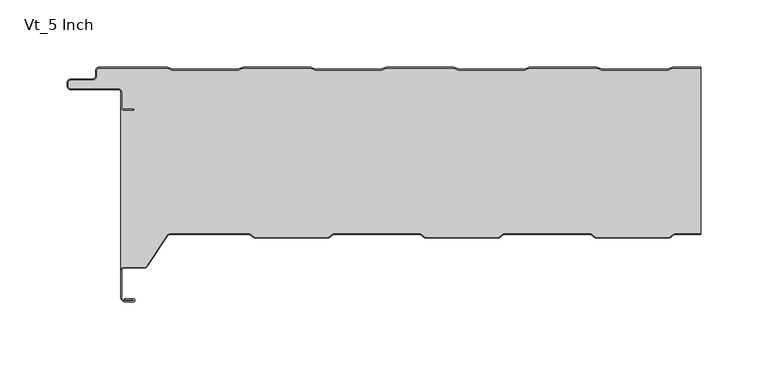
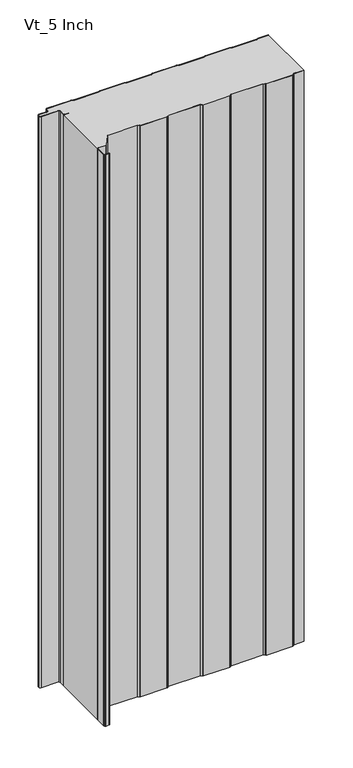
"""IFC4 building model written with IfcOpenShell, lengths in millimetres: plate geometry, KIP_R19_CP_KingSeam_Vt_Roof Panel : Vt_5 Inch."""

from ifc_helpers import new_model, si_unit, point, frame_2d, origin, origin_with_axes, place, context, project, spatial, polyline, circle_curve, trimmed, segment, composite_curve, outline, extrude, source, transform, mapped, element, save


def vt_5_inch_9fe79b5c(model_context):
    return source(origin(), model_context, "Body", "SweptSolid", [
        extrude(outline(composite_curve([segment(trimmed(circle_curve(frame_2d((-213.9200605, -30.0)), 2.0), [point((-213.9200605, -32.0))], [point((-215.9200605, -30.0))], False, "CARTESIAN"), True, "CONTINUOUS"), segment(polyline([(-215.9200605, -30.0), (-215.9200605, -18.5)]), True, "CONTINUOUS"), segment(trimmed(circle_curve(frame_2d((-217.4200605, -18.5)), 1.5), [point((-215.9200605, -18.5))], [point((-217.4200605, -17.0))], True, "CARTESIAN"), True, "CONTINUOUS"), segment(polyline([(-217.4200605, -17.0), (-252.9200605, -17.0)]), True, "CONTINUOUS"), segment(trimmed(circle_curve(frame_2d((-252.9200605, -14.0)), 3.0), [point((-252.9200605, -17.0))], [point((-255.9200605, -14.0))], False, "CARTESIAN"), True, "CONTINUOUS"), segment(polyline([(-255.9200605, -14.0), (-255.9200605, -12.0)]), True, "CONTINUOUS"), segment(trimmed(circle_curve(frame_2d((-252.9200605, -12.0)), 3.0), [point((-255.9200605, -12.0))], [point((-252.9200605, -9.0))], False, "CARTESIAN"), True, "CONTINUOUS"), segment(polyline([(-252.9200605, -9.0), (-237.2042607, -9.0)]), True, "CONTINUOUS"), segment(trimmed(circle_curve(frame_2d((-237.2042607, -6.5)), 2.5), [point((-237.2042607, -9.0))], [point((-234.7042607, -6.5))], True, "CARTESIAN"), True, "CONTINUOUS"), segment(polyline([(-234.7042607, -6.5), (-234.7042607, -3.0)]), True, "CONTINUOUS"), segment(trimmed(circle_curve(frame_2d((-231.7042607, -3.0)), 3.0), [point((-234.7042607, -3.0))], [point((-231.7042607, 0.0))], False, "CARTESIAN"), True, "CONTINUOUS"), segment(polyline([(-231.7042607, 0.0), (-181.9469381, 0.0)]), True, "CONTINUOUS"), segment(trimmed(circle_curve(frame_2d((-181.9469381, -3.2)), 3.2), [point((-181.9469381, 0.0))], [point((-180.677843, -0.2624164))], False, "CARTESIAN"), True, "CONTINUOUS"), segment(polyline([(-180.677843, -0.2624164), (-178.2877438, -1.2949872)]), True, "CONTINUOUS"), segment(trimmed(circle_curve(frame_2d((-177.2962632, 1.0)), 2.5), [point((-178.2877438, -1.2949872))], [point((-177.2962632, -1.5))], True, "CARTESIAN"), True, "CONTINUOUS"), segment(polyline([(-177.2962632, -1.5), (-128.9122581, -1.5)]), True, "CONTINUOUS"), segment(trimmed(circle_curve(frame_2d((-128.9122581, 1.0)), 2.5), [point((-128.9122581, -1.5))], [point((-127.9207775, -1.2949872))], True, "CARTESIAN"), True, "CONTINUOUS"), segment(polyline([(-127.9207775, -1.2949872), (-125.5306783, -0.2624164)]), True, "CONTINUOUS"), segment(trimmed(circle_curve(frame_2d((-124.2615832, -3.2)), 3.2), [point((-125.5306783, -0.2624164))], [point((-124.2615832, 0.0))], False, "CARTESIAN"), True, "CONTINUOUS"), segment(polyline([(-124.2615832, 0.0), (-75.3469381, 0.0)]), True, "CONTINUOUS"), segment(trimmed(circle_curve(frame_2d((-75.3469381, -3.2)), 3.2), [point((-75.3469381, 0.0))], [point((-74.077843, -0.2624164))], False, "CARTESIAN"), True, "CONTINUOUS"), segment(polyline([(-74.077843, -0.2624164), (-71.6877438, -1.2949872)]), True, "CONTINUOUS"), segment(trimmed(circle_curve(frame_2d((-70.6962632, 1.0)), 2.5), [point((-71.6877438, -1.2949872))], [point((-70.6962632, -1.5))], True, "CARTESIAN"), True, "CONTINUOUS"), segment(polyline([(-70.6962632, -1.5), (-22.3122581, -1.5)]), True, "CONTINUOUS"), segment(trimmed(circle_curve(frame_2d((-22.3122581, 1.0)), 2.5), [point((-22.3122581, -1.5))], [point((-21.3207775, -1.2949872))], True, "CARTESIAN"), True, "CONTINUOUS"), segment(polyline([(-21.3207775, -1.2949872), (-18.9306783, -0.2624164)]), True, "CONTINUOUS"), segment(trimmed(circle_curve(frame_2d((-17.6615832, -3.2)), 3.2), [point((-18.9306783, -0.2624164))], [point((-17.6615832, 0.0))], False, "CARTESIAN"), True, "CONTINUOUS"), segment(polyline([(-17.6615832, 0.0), (31.2530619, 0.0)]), True, "CONTINUOUS"), segment(trimmed(circle_curve(frame_2d((31.2530619, -3.2)), 3.2), [point((31.2530619, 0.0))], [point((32.522157, -0.2624164))], False, "CARTESIAN"), True, "CONTINUOUS"), segment(polyline([(32.522157, -0.2624164), (34.9122562, -1.2949872)]), True, "CONTINUOUS"), segment(trimmed(circle_curve(frame_2d((35.9037368, 1.0)), 2.5), [point((34.9122562, -1.2949872))], [point((35.9037368, -1.5))], True, "CARTESIAN"), True, "CONTINUOUS"), segment(polyline([(35.9037368, -1.5), (84.2877419, -1.5)]), True, "CONTINUOUS"), segment(trimmed(circle_curve(frame_2d((84.2877419, 1.0)), 2.5), [point((84.2877419, -1.5))], [point((85.2792225, -1.2949872))], True, "CARTESIAN"), True, "CONTINUOUS"), segment(polyline([(85.2792225, -1.2949872), (87.6693217, -0.2624164)]), True, "CONTINUOUS"), segment(trimmed(circle_curve(frame_2d((88.9384168, -3.2)), 3.2), [point((87.6693217, -0.2624164))], [point((88.9384168, 0.0))], False, "CARTESIAN"), True, "CONTINUOUS"), segment(polyline([(88.9384168, 0.0), (137.8530619, 0.0)]), True, "CONTINUOUS"), segment(trimmed(circle_curve(frame_2d((137.8530619, -3.2)), 3.2), [point((137.8530619, 0.0))], [point((139.122157, -0.2624164))], False, "CARTESIAN"), True, "CONTINUOUS"), segment(polyline([(139.122157, -0.2624164), (141.5122562, -1.2949872)]), True, "CONTINUOUS"), segment(trimmed(circle_curve(frame_2d((142.5037368, 1.0)), 2.5), [point((141.5122562, -1.2949872))], [point((142.5037368, -1.5))], True, "CARTESIAN"), True, "CONTINUOUS"), segment(polyline([(142.5037368, -1.5), (190.8877419, -1.5)]), True, "CONTINUOUS"), segment(trimmed(circle_curve(frame_2d((190.8877419, 1.0)), 2.5), [point((190.8877419, -1.5))], [point((191.8792225, -1.2949872))], True, "CARTESIAN"), True, "CONTINUOUS"), segment(polyline([(191.8792225, -1.2949872), (194.2693217, -0.2624164)]), True, "CONTINUOUS"), segment(trimmed(circle_curve(frame_2d((195.5384168, -3.2)), 3.2), [point((194.2693217, -0.2624164))], [point((195.5384168, 0.0))], False, "CARTESIAN"), True, "CONTINUOUS"), segment(polyline([(195.5384168, 0.0), (215.9042607, 0.0), (215.9042607, -0.8), (195.5384168, -0.8)]), True, "CONTINUOUS"), segment(trimmed(circle_curve(frame_2d((195.5384168, -3.2)), 2.4), [point((195.5384168, -0.8))], [point((194.5865954, -0.9968123))], True, "CARTESIAN"), True, "CONTINUOUS"), segment(polyline([(194.5865954, -0.9968123), (192.1964962, -2.0293831)]), True, "CONTINUOUS"), segment(trimmed(circle_curve(frame_2d((190.8877419, 1.0)), 3.3), [point((192.1964962, -2.0293831))], [point((190.8877419, -2.3))], False, "CARTESIAN"), True, "CONTINUOUS"), segment(polyline([(190.8877419, -2.3), (142.5037368, -2.3)]), True, "CONTINUOUS"), segment(trimmed(circle_curve(frame_2d((142.5037368, 1.0)), 3.3), [point((142.5037368, -2.3))], [point((141.1949824, -2.0293831))], False, "CARTESIAN"), True, "CONTINUOUS"), segment(polyline([(141.1949824, -2.0293831), (138.8048832, -0.9968123)]), True, "CONTINUOUS"), segment(trimmed(circle_curve(frame_2d((137.8530619, -3.2)), 2.4), [point((138.8048832, -0.9968123))], [point((137.8530619, -0.8))], True, "CARTESIAN"), True, "CONTINUOUS"), segment(polyline([(137.8530619, -0.8), (88.9384168, -0.8)]), True, "CONTINUOUS"), segment(trimmed(circle_curve(frame_2d((88.9384168, -3.2)), 2.4), [point((88.9384168, -0.8))], [point((87.9865954, -0.9968123))], True, "CARTESIAN"), True, "CONTINUOUS"), segment(polyline([(87.9865954, -0.9968123), (85.5964962, -2.0293831)]), True, "CONTINUOUS"), segment(trimmed(circle_curve(frame_2d((84.2877419, 1.0)), 3.3), [point((85.5964962, -2.0293831))], [point((84.2877419, -2.3))], False, "CARTESIAN"), True, "CONTINUOUS"), segment(polyline([(84.2877419, -2.3), (35.9037368, -2.3)]), True, "CONTINUOUS"), segment(trimmed(circle_curve(frame_2d((35.9037368, 1.0)), 3.3), [point((35.9037368, -2.3))], [point((34.5949824, -2.0293831))], False, "CARTESIAN"), True, "CONTINUOUS"), segment(polyline([(34.5949824, -2.0293831), (32.2048832, -0.9968123)]), True, "CONTINUOUS"), segment(trimmed(circle_curve(frame_2d((31.2530619, -3.2)), 2.4), [point((32.2048832, -0.9968123))], [point((31.2530619, -0.8))], True, "CARTESIAN"), True, "CONTINUOUS"), segment(polyline([(31.2530619, -0.8), (-17.6615832, -0.8)]), True, "CONTINUOUS"), segment(trimmed(circle_curve(frame_2d((-17.6615832, -3.2)), 2.4), [point((-17.6615832, -0.8))], [point((-18.6134046, -0.9968123))], True, "CARTESIAN"), True, "CONTINUOUS"), segment(polyline([(-18.6134046, -0.9968123), (-21.0035038, -2.0293831)]), True, "CONTINUOUS"), segment(trimmed(circle_curve(frame_2d((-22.3122581, 1.0)), 3.3), [point((-21.0035038, -2.0293831))], [point((-22.3122581, -2.3))], False, "CARTESIAN"), True, "CONTINUOUS"), segment(polyline([(-22.3122581, -2.3), (-70.6962632, -2.3)]), True, "CONTINUOUS"), segment(trimmed(circle_curve(frame_2d((-70.6962632, 1.0)), 3.3), [point((-70.6962632, -2.3))], [point((-72.0050176, -2.0293831))], False, "CARTESIAN"), True, "CONTINUOUS"), segment(polyline([(-72.0050176, -2.0293831), (-74.3951168, -0.9968123)]), True, "CONTINUOUS"), segment(trimmed(circle_curve(frame_2d((-75.3469381, -3.2)), 2.4), [point((-74.3951168, -0.9968123))], [point((-75.3469381, -0.8))], True, "CARTESIAN"), True, "CONTINUOUS"), segment(polyline([(-75.3469381, -0.8), (-124.2615832, -0.8)]), True, "CONTINUOUS"), segment(trimmed(circle_curve(frame_2d((-124.2615832, -3.2)), 2.4), [point((-124.2615832, -0.8))], [point((-125.2134046, -0.9968123))], True, "CARTESIAN"), True, "CONTINUOUS"), segment(polyline([(-125.2134046, -0.9968123), (-127.6035038, -2.0293831)]), True, "CONTINUOUS"), segment(trimmed(circle_curve(frame_2d((-128.9122581, 1.0)), 3.3), [point((-127.6035038, -2.0293831))], [point((-128.9122581, -2.3))], False, "CARTESIAN"), True, "CONTINUOUS"), segment(polyline([(-128.9122581, -2.3), (-177.2962632, -2.3)]), True, "CONTINUOUS"), segment(trimmed(circle_curve(frame_2d((-177.2962632, 1.0)), 3.3), [point((-177.2962632, -2.3))], [point((-178.6050176, -2.0293831))], False, "CARTESIAN"), True, "CONTINUOUS"), segment(polyline([(-178.6050176, -2.0293831), (-180.9951168, -0.9968123)]), True, "CONTINUOUS"), segment(trimmed(circle_curve(frame_2d((-181.9469381, -3.2)), 2.4), [point((-180.9951168, -0.9968123))], [point((-181.9469381, -0.8))], True, "CARTESIAN"), True, "CONTINUOUS"), segment(polyline([(-181.9469381, -0.8), (-231.7042607, -0.8)]), True, "CONTINUOUS"), segment(trimmed(circle_curve(frame_2d((-232.1480113, -2.8161925)), 2.0644483), [point((-231.7042607, -0.8))], [point((-234.2042607, -3.0))], True, "CARTESIAN"), True, "CONTINUOUS"), segment(polyline([(-234.2042607, -3.0), (-234.2042607, -6.5)]), True, "CONTINUOUS"), segment(trimmed(circle_curve(frame_2d((-237.2042607, -6.5)), 3.0), [point((-234.2042607, -6.5))], [point((-237.2042607, -9.5))], False, "CARTESIAN"), True, "CONTINUOUS"), segment(polyline([(-237.2042607, -9.5), (-252.9200605, -9.5)]), True, "CONTINUOUS"), segment(trimmed(circle_curve(frame_2d((-252.9200605, -12.0)), 2.5), [point((-252.9200605, -9.5))], [point((-255.4200605, -12.0))], True, "CARTESIAN"), True, "CONTINUOUS"), segment(polyline([(-255.4200605, -12.0), (-255.4200605, -14.0)]), True, "CONTINUOUS"), segment(trimmed(circle_curve(frame_2d((-252.9200605, -14.0)), 2.5), [point((-255.4200605, -14.0))], [point((-252.9200605, -16.5))], True, "CARTESIAN"), True, "CONTINUOUS"), segment(polyline([(-252.9200605, -16.5), (-217.4200605, -16.5)]), True, "CONTINUOUS"), segment(trimmed(circle_curve(frame_2d((-217.4200605, -18.5)), 2.0), [point((-217.4200605, -16.5))], [point((-215.4200605, -18.5))], False, "CARTESIAN"), True, "CONTINUOUS"), segment(polyline([(-215.4200605, -18.5), (-215.4200605, -29.7)]), True, "CONTINUOUS"), segment(trimmed(circle_curve(frame_2d((-213.9200605, -29.7)), 1.5), [point((-215.4200605, -29.7))], [point((-213.9200605, -31.2))], True, "CARTESIAN"), True, "CONTINUOUS"), segment(polyline([(-213.9200605, -31.2), (-206.4200605, -31.2), (-206.4200605, -32.0), (-213.9200605, -32.0)]), True, "CONTINUOUS")], self_intersect=False)), origin_with_axes(), (0.0, 0.0, 1.0), 1219.2),
        extrude(outline(composite_curve([segment(polyline([(195.5542167, -0.7999994), (215.9042607, -0.7999994), (215.9042607, -124.2158809), (196.3089613, -124.2158809), (192.849266, -126.7158093)]), True, "CONTINUOUS"), segment(trimmed(circle_curve(frame_2d((191.9707393, -125.5000006)), 1.4999999), [point((192.849266, -126.7158093))], [point((191.9707393, -127.0000006))], False, "CARTESIAN"), True, "CONTINUOUS"), segment(polyline([(191.9707393, -127.0000006), (138.2207394, -127.0000006)]), True, "CONTINUOUS"), segment(trimmed(circle_curve(frame_2d((138.2207394, -125.5000005)), 1.5000001), [point((138.2207394, -127.0000006))], [point((137.3422125, -126.7158092))], False, "CARTESIAN"), True, "CONTINUOUS"), segment(polyline([(137.3422125, -126.7158092), (133.8825178, -124.2158809), (69.3089613, -124.2158809), (65.8492658, -126.7158092)]), True, "CONTINUOUS"), segment(trimmed(circle_curve(frame_2d((64.9707393, -125.5000006)), 1.4999997), [point((65.8492658, -126.7158092))], [point((64.9707393, -127.0000004))], False, "CARTESIAN"), True, "CONTINUOUS"), segment(polyline([(64.9707393, -127.0000004), (11.2207394, -127.0000004)]), True, "CONTINUOUS"), segment(trimmed(circle_curve(frame_2d((11.2207394, -125.5000003)), 1.5000001), [point((11.2207394, -127.0000004))], [point((10.3422125, -126.715809))], False, "CARTESIAN"), True, "CONTINUOUS"), segment(polyline([(10.3422125, -126.715809), (6.8825178, -124.2158807), (-57.6910391, -124.2158807), (-61.1507337, -126.715809)]), True, "CONTINUOUS"), segment(trimmed(circle_curve(frame_2d((-62.0292606, -125.5000001)), 1.5000002), [point((-61.1507337, -126.715809))], [point((-62.0292606, -127.0000003))], False, "CARTESIAN"), True, "CONTINUOUS"), segment(polyline([(-62.0292606, -127.0000003), (-115.7792606, -127.0000003)]), True, "CONTINUOUS"), segment(trimmed(circle_curve(frame_2d((-115.7792606, -125.5000002)), 1.5000002), [point((-115.7792606, -127.0000003))], [point((-116.6577875, -126.715809))], False, "CARTESIAN"), True, "CONTINUOUS"), segment(polyline([(-116.6577875, -126.715809), (-120.1174822, -124.2158807), (-179.2914098, -124.2158807)]), True, "CONTINUOUS"), segment(trimmed(circle_curve(frame_2d((-179.2914098, -126.7158809)), 2.5000002), [point((-179.2914098, -124.2158807))], [point((-181.3764799, -125.3365754))], True, "CARTESIAN"), True, "CONTINUOUS"), segment(polyline([(-181.3764799, -125.3365754), (-196.5799181, -148.3193254)]), True, "CONTINUOUS"), segment(trimmed(circle_curve(frame_2d((-198.2479741, -147.2158811)), 2.0), [point((-196.5799181, -148.3193254))], [point((-198.2479741, -149.2158811))], False, "CARTESIAN"), True, "CONTINUOUS"), segment(polyline([(-198.2479741, -149.2158811), (-213.8042606, -149.2158811)]), True, "CONTINUOUS"), segment(trimmed(circle_curve(frame_2d((-213.8042606, -151.3158809)), 2.0999999), [point((-213.8042606, -149.2158811))], [point((-215.9042605, -151.3158809))], True, "CARTESIAN"), True, "CONTINUOUS"), segment(polyline([(-215.9042605, -151.3158809), (-215.9042605, -29.9999994)]), True, "CONTINUOUS"), segment(trimmed(circle_curve(frame_2d((-213.9042605, -29.9999994)), 2.0), [point((-215.9042605, -29.9999994))], [point((-213.9042605, -31.9999994))], True, "CARTESIAN"), True, "CONTINUOUS"), segment(polyline([(-213.9042605, -31.9999994), (-206.4042605, -31.9999994), (-206.4042605, -31.1999994), (-213.9042605, -31.1999994)]), True, "CONTINUOUS"), segment(trimmed(circle_curve(frame_2d((-213.9042605, -29.6999994)), 1.5), [point((-213.9042605, -31.1999994))], [point((-215.4042605, -29.6999994))], False, "CARTESIAN"), True, "CONTINUOUS"), segment(polyline([(-215.4042605, -29.6999994), (-215.4042605, -18.4999994)]), True, "CONTINUOUS"), segment(trimmed(circle_curve(frame_2d((-217.4042605, -18.4999994)), 2.0), [point((-215.4042605, -18.4999994))], [point((-217.4042605, -16.4999994))], True, "CARTESIAN"), True, "CONTINUOUS"), segment(polyline([(-217.4042605, -16.4999994), (-252.9042605, -16.4999994)]), True, "CONTINUOUS"), segment(trimmed(circle_curve(frame_2d((-252.9042605, -13.9999994)), 2.5), [point((-252.9042605, -16.4999994))], [point((-255.4042605, -13.9999994))], False, "CARTESIAN"), True, "CONTINUOUS"), segment(polyline([(-255.4042605, -13.9999994), (-255.4042605, -11.9999994)]), True, "CONTINUOUS"), segment(trimmed(circle_curve(frame_2d((-252.9042605, -11.9999994)), 2.5), [point((-255.4042605, -11.9999994))], [point((-252.9042605, -9.4999994))], False, "CARTESIAN"), True, "CONTINUOUS"), segment(polyline([(-252.9042605, -9.4999994), (-237.1884607, -9.4999994)]), True, "CONTINUOUS"), segment(trimmed(circle_curve(frame_2d((-237.1884607, -6.4999994)), 3.0), [point((-237.1884607, -9.4999994))], [point((-234.1884607, -6.4999994))], True, "CARTESIAN"), True, "CONTINUOUS"), segment(polyline([(-234.1884607, -6.4999994), (-234.1884607, -2.9999994)]), True, "CONTINUOUS"), segment(trimmed(circle_curve(frame_2d((-232.1322114, -2.8161919)), 2.0644483), [point((-234.1884607, -2.9999994))], [point((-231.6884607, -0.7999994))], False, "CARTESIAN"), True, "CONTINUOUS"), segment(polyline([(-231.6884607, -0.7999994), (-181.9311382, -0.7999994)]), True, "CONTINUOUS"), segment(trimmed(circle_curve(frame_2d((-181.9311382, -3.1999994)), 2.4), [point((-181.9311382, -0.7999994))], [point((-180.9793169, -0.9968117))], False, "CARTESIAN"), True, "CONTINUOUS"), segment(polyline([(-180.9793169, -0.9968117), (-178.5892176, -2.0293826)]), True, "CONTINUOUS"), segment(trimmed(circle_curve(frame_2d((-177.2804633, 1.0000006)), 3.3), [point((-178.5892176, -2.0293826))], [point((-177.2804633, -2.2999994))], True, "CARTESIAN"), True, "CONTINUOUS"), segment(polyline([(-177.2804633, -2.2999994), (-128.8964582, -2.2999994)]), True, "CONTINUOUS"), segment(trimmed(circle_curve(frame_2d((-128.8964582, 1.0000006)), 3.3), [point((-128.8964582, -2.2999994))], [point((-127.5877038, -2.0293826))], True, "CARTESIAN"), True, "CONTINUOUS"), segment(polyline([(-127.5877038, -2.0293826), (-125.1976046, -0.9968117)]), True, "CONTINUOUS"), segment(trimmed(circle_curve(frame_2d((-124.2457833, -3.1999994)), 2.4), [point((-125.1976046, -0.9968117))], [point((-124.2457833, -0.7999994))], False, "CARTESIAN"), True, "CONTINUOUS"), segment(polyline([(-124.2457833, -0.7999994), (-75.3311382, -0.7999994)]), True, "CONTINUOUS"), segment(trimmed(circle_curve(frame_2d((-75.3311382, -3.1999994)), 2.4), [point((-75.3311382, -0.7999994))], [point((-74.3793169, -0.9968117))], False, "CARTESIAN"), True, "CONTINUOUS"), segment(polyline([(-74.3793169, -0.9968117), (-71.9892176, -2.0293826)]), True, "CONTINUOUS"), segment(trimmed(circle_curve(frame_2d((-70.6804633, 1.0000006)), 3.3), [point((-71.9892176, -2.0293826))], [point((-70.6804633, -2.2999994))], True, "CARTESIAN"), True, "CONTINUOUS"), segment(polyline([(-70.6804633, -2.2999994), (-22.2964582, -2.2999994)]), True, "CONTINUOUS"), segment(trimmed(circle_curve(frame_2d((-22.2964582, 1.0000006)), 3.3), [point((-22.2964582, -2.2999994))], [point((-20.9877038, -2.0293826))], True, "CARTESIAN"), True, "CONTINUOUS"), segment(polyline([(-20.9877038, -2.0293826), (-18.5976046, -0.9968117)]), True, "CONTINUOUS"), segment(trimmed(circle_curve(frame_2d((-17.6457833, -3.1999994)), 2.4), [point((-18.5976046, -0.9968117))], [point((-17.6457833, -0.7999994))], False, "CARTESIAN"), True, "CONTINUOUS"), segment(polyline([(-17.6457833, -0.7999994), (31.2688618, -0.7999994)]), True, "CONTINUOUS"), segment(trimmed(circle_curve(frame_2d((31.2688618, -3.1999994)), 2.4), [point((31.2688618, -0.7999994))], [point((32.2206831, -0.9968117))], False, "CARTESIAN"), True, "CONTINUOUS"), segment(polyline([(32.2206831, -0.9968117), (34.6107824, -2.0293826)]), True, "CONTINUOUS"), segment(trimmed(circle_curve(frame_2d((35.9195367, 1.0000006)), 3.3), [point((34.6107824, -2.0293826))], [point((35.9195367, -2.2999994))], True, "CARTESIAN"), True, "CONTINUOUS"), segment(polyline([(35.9195367, -2.2999994), (84.3035418, -2.2999994)]), True, "CONTINUOUS"), segment(trimmed(circle_curve(frame_2d((84.3035418, 1.0000006)), 3.3), [point((84.3035418, -2.2999994))], [point((85.6122962, -2.0293826))], True, "CARTESIAN"), True, "CONTINUOUS"), segment(polyline([(85.6122962, -2.0293826), (88.0023954, -0.9968117)]), True, "CONTINUOUS"), segment(trimmed(circle_curve(frame_2d((88.9542167, -3.1999994)), 2.4), [point((88.0023954, -0.9968117))], [point((88.9542167, -0.7999994))], False, "CARTESIAN"), True, "CONTINUOUS"), segment(polyline([(88.9542167, -0.7999994), (137.8688618, -0.7999994)]), True, "CONTINUOUS"), segment(trimmed(circle_curve(frame_2d((137.8688618, -3.1999994)), 2.4), [point((137.8688618, -0.7999994))], [point((138.8206831, -0.9968117))], False, "CARTESIAN"), True, "CONTINUOUS"), segment(polyline([(138.8206831, -0.9968117), (141.2107824, -2.0293826)]), True, "CONTINUOUS"), segment(trimmed(circle_curve(frame_2d((142.5195367, 1.0000006)), 3.3), [point((141.2107824, -2.0293826))], [point((142.5195367, -2.2999994))], True, "CARTESIAN"), True, "CONTINUOUS"), segment(polyline([(142.5195367, -2.2999994), (190.9035418, -2.2999994)]), True, "CONTINUOUS"), segment(trimmed(circle_curve(frame_2d((190.9035418, 1.0000006)), 3.3), [point((190.9035418, -2.2999994))], [point((192.2122962, -2.0293826))], True, "CARTESIAN"), True, "CONTINUOUS"), segment(polyline([(192.2122962, -2.0293826), (194.6023954, -0.9968117)]), True, "CONTINUOUS"), segment(trimmed(circle_curve(frame_2d((195.5542167, -3.1999994)), 2.4), [point((194.6023954, -0.9968117))], [point((195.5542167, -0.7999994))], False, "CARTESIAN"), True, "CONTINUOUS")], self_intersect=False)), origin_with_axes(), (0.0, 0.0, 1.0), 1219.2),
        extrude(outline(composite_curve([segment(polyline([(196.268218, -124.2158803), (215.9042607, -124.2158803), (215.9042607, -124.7158804), (196.2682176, -124.7158804), (192.8085228, -127.2158085)]), True, "CONTINUOUS"), segment(trimmed(circle_curve(frame_2d((191.929996, -125.9999998)), 1.5), [point((192.8085228, -127.2158085))], [point((191.9290246, -127.4999995))], False, "CARTESIAN"), True, "CONTINUOUS"), segment(polyline([(191.9290246, -127.4999995), (138.1799961, -127.4999995)]), True, "CONTINUOUS"), segment(trimmed(circle_curve(frame_2d((138.1799961, -125.9999995)), 1.5), [point((138.1799961, -127.4999995))], [point((137.3014693, -127.2158082))], False, "CARTESIAN"), True, "CONTINUOUS"), segment(polyline([(137.3014693, -127.2158082), (133.8417751, -124.7158804), (69.2682178, -124.7158804), (65.8085233, -127.2158087)]), True, "CONTINUOUS"), segment(trimmed(circle_curve(frame_2d((64.9299963, -125.9999998)), 1.5000003), [point((65.8085233, -127.2158087))], [point((64.9290248, -127.4999999))], False, "CARTESIAN"), True, "CONTINUOUS"), segment(polyline([(64.9290248, -127.4999999), (11.1799962, -127.4999999)]), True, "CONTINUOUS"), segment(trimmed(circle_curve(frame_2d((11.1799962, -125.9999998)), 1.5), [point((11.1799962, -127.4999999))], [point((10.3014694, -127.2158085))], False, "CARTESIAN"), True, "CONTINUOUS"), segment(polyline([(10.3014694, -127.2158085), (6.8417748, -124.7158804), (-57.7317821, -124.7158804), (-61.191477, -127.2158085)]), True, "CONTINUOUS"), segment(trimmed(circle_curve(frame_2d((-62.0700036, -125.9999999)), 1.4999999), [point((-61.191477, -127.2158085))], [point((-62.0709751, -127.4999995))], False, "CARTESIAN"), True, "CONTINUOUS"), segment(polyline([(-62.0709751, -127.4999995), (-115.8200035, -127.4999995)]), True, "CONTINUOUS"), segment(trimmed(circle_curve(frame_2d((-115.8200035, -125.9999994)), 1.5000001), [point((-115.8200035, -127.4999995))], [point((-116.6985303, -127.2158081))], False, "CARTESIAN"), True, "CONTINUOUS"), segment(polyline([(-116.6985303, -127.2158081), (-120.1582242, -124.7158806), (-179.3321527, -124.7158806)]), True, "CONTINUOUS"), segment(trimmed(circle_curve(frame_2d((-179.3321527, -126.7158804)), 1.9999997), [point((-179.3321527, -124.7158806))], [point((-181.0002085, -125.6124361))], True, "CARTESIAN"), True, "CONTINUOUS"), segment(polyline([(-181.0002085, -125.6124361), (-196.2036471, -148.5951861)]), True, "CONTINUOUS"), segment(trimmed(circle_curve(frame_2d((-198.2887169, -147.2158807)), 2.4999999), [point((-196.2036471, -148.5951861))], [point((-198.2887169, -149.7158806))], False, "CARTESIAN"), True, "CONTINUOUS"), segment(polyline([(-198.2887169, -149.7158806), (-213.8450035, -149.7158806)]), True, "CONTINUOUS"), segment(trimmed(circle_curve(frame_2d((-213.8450035, -151.3158806)), 1.6), [point((-213.8450035, -149.7158806))], [point((-215.4450035, -151.3158806))], True, "CARTESIAN"), True, "CONTINUOUS"), segment(polyline([(-215.4450035, -151.3158806), (-215.4450035, -172.1669597)]), True, "CONTINUOUS"), segment(trimmed(circle_curve(frame_2d((-214.2550035, -172.1669597)), 1.19), [point((-215.4450035, -172.1669597))], [point((-215.0964606, -173.0084168))], True, "CARTESIAN"), True, "CONTINUOUS"), segment(polyline([(-215.0964606, -173.0084168), (-214.0864397, -174.0184377)]), True, "CONTINUOUS"), segment(trimmed(circle_curve(frame_2d((-213.2449826, -173.1769807)), 1.19), [point((-214.0864397, -174.0184377))], [point((-213.2449826, -174.3669807))], True, "CARTESIAN"), True, "CONTINUOUS"), segment(polyline([(-213.2449826, -174.3669807), (-206.5150035, -174.3669807)]), True, "CONTINUOUS"), segment(trimmed(circle_curve(frame_2d((-206.5150035, -173.9669807)), 0.4), [point((-206.5150035, -174.3669807))], [point((-206.5150035, -173.5669807))], True, "CARTESIAN"), True, "CONTINUOUS"), segment(polyline([(-206.5150035, -173.5669807), (-213.2449826, -173.5669807), (-213.2449826, -172.7669807), (-206.5150035, -172.7669807)]), True, "CONTINUOUS"), segment(trimmed(circle_curve(frame_2d((-206.5150035, -173.8169807)), 1.05), [point((-206.5150035, -172.7669807))], [point((-206.5150035, -174.8669807))], False, "CARTESIAN"), True, "CONTINUOUS"), segment(polyline([(-206.5150035, -174.8669807), (-213.2449826, -174.8669807)]), True, "CONTINUOUS"), segment(trimmed(circle_curve(frame_2d((-213.2449826, -173.1769807)), 1.69), [point((-213.2449826, -174.8669807))], [point((-214.4399932, -174.371991))], False, "CARTESIAN"), True, "CONTINUOUS"), segment(polyline([(-214.4399932, -174.371991), (-215.450014, -173.36197)]), True, "CONTINUOUS"), segment(trimmed(circle_curve(frame_2d((-214.2550035, -172.1669597)), 1.6899998), [point((-215.450014, -173.36197))], [point((-215.9450033, -172.1669597))], False, "CARTESIAN"), True, "CONTINUOUS"), segment(polyline([(-215.9450033, -172.1669597), (-215.9450033, -151.3158805)]), True, "CONTINUOUS"), segment(trimmed(circle_curve(frame_2d((-213.8450035, -151.3158805)), 2.0999998), [point((-215.9450033, -151.3158805))], [point((-213.8450035, -149.2158807))], False, "CARTESIAN"), True, "CONTINUOUS"), segment(polyline([(-213.8450035, -149.2158807), (-198.2887169, -149.2158807)]), True, "CONTINUOUS"), segment(trimmed(circle_curve(frame_2d((-198.2887169, -147.2158807)), 2.0), [point((-198.2887169, -149.2158807))], [point((-196.620661, -148.319325))], True, "CARTESIAN"), True, "CONTINUOUS"), segment(polyline([(-196.620661, -148.319325), (-181.4172227, -125.3365749)]), True, "CONTINUOUS"), segment(trimmed(circle_curve(frame_2d((-179.3321527, -126.7158804)), 2.5), [point((-181.4172227, -125.3365749))], [point((-179.3321527, -124.2158803))], False, "CARTESIAN"), True, "CONTINUOUS"), segment(polyline([(-179.3321527, -124.2158803), (-120.1582251, -124.2158803), (-116.6985304, -126.7158086)]), True, "CONTINUOUS"), segment(trimmed(circle_curve(frame_2d((-115.8200035, -125.4999998)), 1.5000002), [point((-116.6985304, -126.7158086))], [point((-115.8200035, -126.9999999))], True, "CARTESIAN"), True, "CONTINUOUS"), segment(polyline([(-115.8200035, -126.9999999), (-62.0700036, -126.9999999)]), True, "CONTINUOUS"), segment(trimmed(circle_curve(frame_2d((-62.0700036, -125.4999999)), 1.5), [point((-62.0700036, -126.9999999))], [point((-61.1914768, -126.7158086))], True, "CARTESIAN"), True, "CONTINUOUS"), segment(polyline([(-61.1914768, -126.7158086), (-57.7317821, -124.2158803), (6.8417748, -124.2158803), (10.3014694, -126.7158087)]), True, "CONTINUOUS"), segment(trimmed(circle_curve(frame_2d((11.1799962, -125.5000001)), 1.5), [point((10.3014694, -126.7158087))], [point((11.1799962, -127.0000001))], True, "CARTESIAN"), True, "CONTINUOUS"), segment(polyline([(11.1799962, -127.0000001), (64.9299962, -127.0000001)]), True, "CONTINUOUS"), segment(trimmed(circle_curve(frame_2d((64.9299962, -125.5000001)), 1.5), [point((64.9299962, -127.0000001))], [point((65.808523, -126.7158088))], True, "CARTESIAN"), True, "CONTINUOUS"), segment(polyline([(65.808523, -126.7158088), (69.2682182, -124.2158803), (133.8417747, -124.2158803), (137.3014693, -126.7158086)]), True, "CONTINUOUS"), segment(trimmed(circle_curve(frame_2d((138.1799961, -125.4999999)), 1.5), [point((137.3014693, -126.7158086))], [point((138.1799961, -126.9999999))], True, "CARTESIAN"), True, "CONTINUOUS"), segment(polyline([(138.1799961, -126.9999999), (191.929996, -126.9999999)]), True, "CONTINUOUS"), segment(trimmed(circle_curve(frame_2d((191.929996, -125.5000001)), 1.4999998), [point((191.929996, -126.9999999))], [point((192.8085226, -126.7158087))], True, "CARTESIAN"), True, "CONTINUOUS"), segment(polyline([(192.8085226, -126.7158087), (196.268218, -124.2158803)]), True, "CONTINUOUS")], self_intersect=False)), origin_with_axes(), (0.0, 0.0, 1.0), 1219.2),
    ])


if __name__ == "__main__":
    model = new_model("IFC4")
    model_context = context("Model", 3, world=origin())
    ifc_project = project(units=[si_unit("LENGTHUNIT", "METRE", prefix="MILLI")], contexts=[model_context])
    site = spatial("IfcSite", under=ifc_project)
    building = spatial("IfcBuilding", under=site)
    placement = place(None, origin())
    vt_5_inch_shape = vt_5_inch_9fe79b5c(model_context)
    element("IfcPlate", 1, ObjectType="KIP_R19_CP_KingSeam_Vt_Roof Panel : Vt_5 Inch", at=placement, inside=building, context=model_context, shape_type="MappedRepresentation", body=[
        mapped(vt_5_inch_shape, transform((0.0, 0.0, 0.0), x_axis=(1.0, 0.0, 0.0), y_axis=(0.0, 1.0, 0.0), z_axis=(0.0, 0.0, 1.0))),
    ])
    save(model, "model.ifc")
